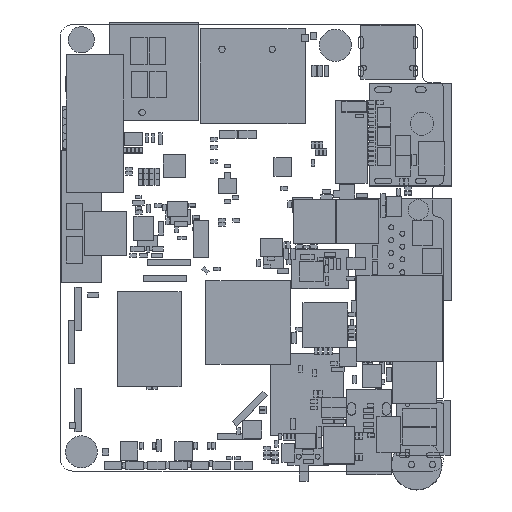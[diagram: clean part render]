
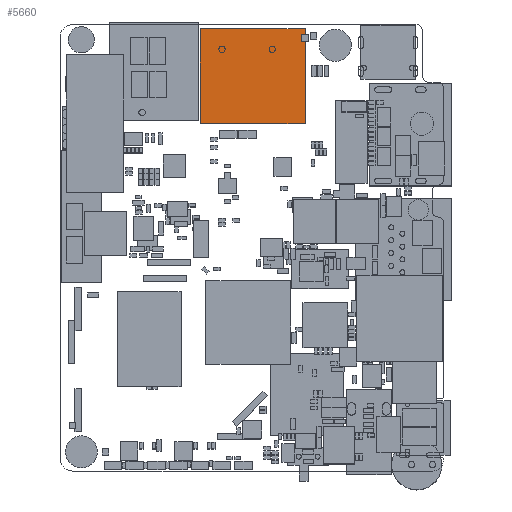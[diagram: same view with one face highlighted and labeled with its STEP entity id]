
A CAD part, top view. The second image highlights one B-rep face of the part: STEP entity #5660.
In plain terms, the highlighted planar face has unit normal (0, 0, 1) as drawn and (0, 0, -1) by its records, which use the part's own axes.
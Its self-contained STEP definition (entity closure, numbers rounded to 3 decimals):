
#4155=FACE_OUTER_BOUND($,#4744,.T.);
#4744=EDGE_LOOP($,(#11308,#11309,#11310,#11311));
#5151=PLANE($,#8837);
#5660=ADVANCED_FACE($,(#4155),#5151,.T.);
#6553=VECTOR($,#15999,16.698);
#6554=VECTOR($,#16000,15.1);
#6555=VECTOR($,#16001,16.698);
#6556=VECTOR($,#16002,15.1);
#7603=LINE($,#18082,#6553);
#7604=LINE($,#18083,#6554);
#7605=LINE($,#18084,#6555);
#7606=LINE($,#18085,#6556);
#8837=AXIS2_PLACEMENT_3D($,#18083,#14914,$);
#11308=ORIENTED_EDGE($,*,*,#12828,.T.);
#11309=ORIENTED_EDGE($,*,*,#12829,.T.);
#11310=ORIENTED_EDGE($,*,*,#12830,.T.);
#11311=ORIENTED_EDGE($,*,*,#12831,.T.);
#12828=EDGE_CURVE($,#13875,#13876,#7603,.T.);
#12829=EDGE_CURVE($,#13876,#13877,#7604,.T.);
#12830=EDGE_CURVE($,#13877,#13878,#7605,.T.);
#12831=EDGE_CURVE($,#13878,#13875,#7606,.T.);
#13875=VERTEX_POINT($,#18082);
#13876=VERTEX_POINT($,#18083);
#13877=VERTEX_POINT($,#18084);
#13878=VERTEX_POINT($,#18085);
#14914=DIRECTION($,(0.,0.,-1.));
#15999=DIRECTION($,(0.,1.,0.));
#16000=DIRECTION($,(1.,0.,0.));
#16001=DIRECTION($,(0.,-1.,0.));
#16002=DIRECTION($,(-1.,0.,0.));
#18082=CARTESIAN_POINT('',(-11.801,-7.399,0.));
#18083=CARTESIAN_POINT('',(-11.801,9.299,0.));
#18084=CARTESIAN_POINT('',(3.299,9.299,0.));
#18085=CARTESIAN_POINT('',(3.299,-7.399,0.));
